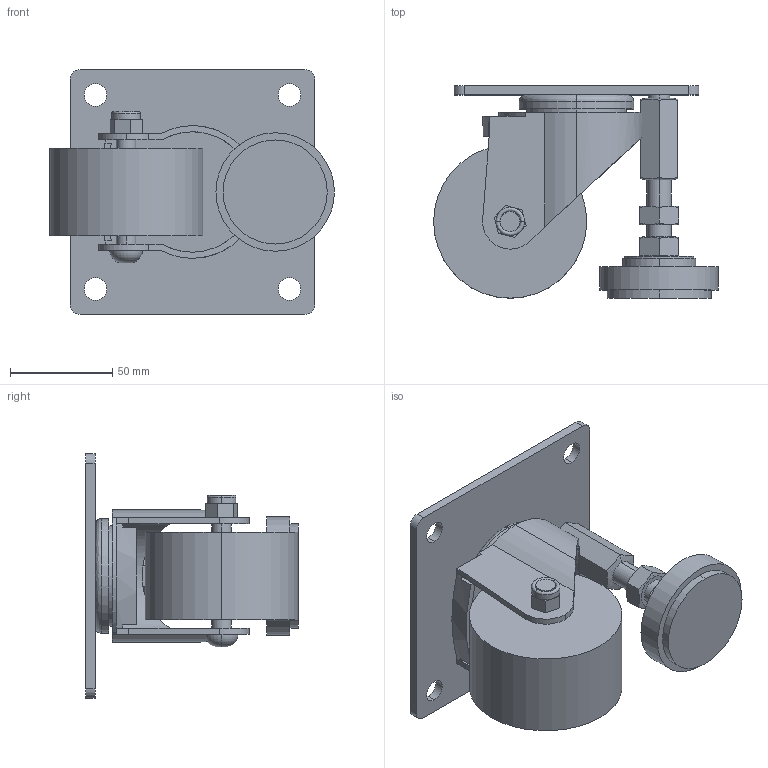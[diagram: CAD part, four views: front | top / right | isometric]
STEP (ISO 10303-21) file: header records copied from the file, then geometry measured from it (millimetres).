
FILE_DESCRIPTION (( 'STEP AP203' ), '1' );
FILE_NAME ('FG-02.STEP', '2015-11-23T06:56:30', ( '' ), ( '' ), 'SwSTEP 2.0', 'SolidWorks 2014', '' );
FILE_SCHEMA (( 'CONFIG_CONTROL_DESIGN' ));
Length unit declared in the file: millimetre
Products named in the file (1): FG-02
Bounding box: 139.5 x 104 x 120 mm (x, y, z)
Volume: 378881.4 mm3; surface area: 88340.3 mm2
Topology: 2 solids, 2 shells, 153 faces, 362 edges, 231 vertices
Faces by surface type: plane 71, cylinder 62, bspline 17, torus 3
Entity records: 4969 total; most frequent: CARTESIAN_POINT 1482, ORIENTED_EDGE 724, DIRECTION 689, EDGE_CURVE 362, AXIS2_PLACEMENT_3D 266, VERTEX_POINT 231, EDGE_LOOP 181, VECTOR 157
